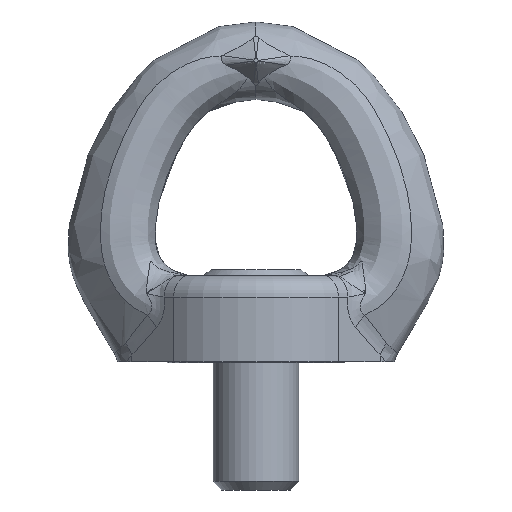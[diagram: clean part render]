
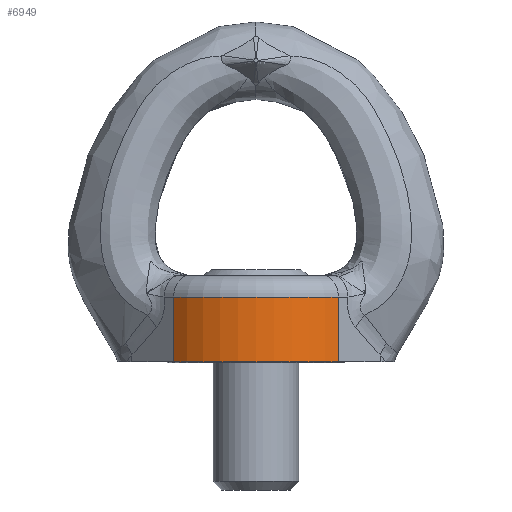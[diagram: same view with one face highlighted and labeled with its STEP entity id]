
A CAD part, front view. The second image highlights one B-rep face of the part: STEP entity #6949.
In plain terms, the highlighted cylindrical face has radius 27 mm (diameter 54 mm), a partial arc.
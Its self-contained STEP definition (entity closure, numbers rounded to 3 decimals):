
#1067=LINE('',#23926,#1388);
#1073=LINE('',#24899,#1394);
#1388=VECTOR('',#8592,10.);
#1394=VECTOR('',#8638,10.);
#1910=FACE_OUTER_BOUND('',#2355,.T.);
#2355=EDGE_LOOP('',(#6312,#6313,#6314,#6315));
#2604=CIRCLE('',#7453,27.);
#2606=CIRCLE('',#7457,27.);
#3349=VERTEX_POINT('',#23857);
#3353=VERTEX_POINT('',#23924);
#3363=VERTEX_POINT('',#24855);
#3365=VERTEX_POINT('',#24898);
#4348=EDGE_CURVE('',#3349,#3353,#1067,.F.);
#4371=EDGE_CURVE('',#3363,#3349,#2604,.T.);
#4374=EDGE_CURVE('',#3363,#3365,#1073,.F.);
#4378=EDGE_CURVE('',#3353,#3365,#2606,.T.);
#6312=ORIENTED_EDGE('',*,*,#4371,.T.);
#6313=ORIENTED_EDGE('',*,*,#4348,.T.);
#6314=ORIENTED_EDGE('',*,*,#4378,.T.);
#6315=ORIENTED_EDGE('',*,*,#4374,.F.);
#6535=CYLINDRICAL_SURFACE('',#7456,27.);
#6949=ADVANCED_FACE('',(#1910),#6535,.T.);
#7453=AXIS2_PLACEMENT_3D('',#24859,#8632,#8633);
#7456=AXIS2_PLACEMENT_3D('',#24920,#8641,#8642);
#7457=AXIS2_PLACEMENT_3D('',#24921,#8643,#8644);
#8592=DIRECTION('',(0.,0.,1.));
#8632=DIRECTION('center_axis',(0.,0.,-1.));
#8633=DIRECTION('ref_axis',(-0.387,-0.922,0.));
#8638=DIRECTION('',(0.,0.,1.));
#8641=DIRECTION('center_axis',(0.,0.,1.));
#8642=DIRECTION('ref_axis',(0.714,0.7,0.));
#8643=DIRECTION('center_axis',(0.,0.,1.));
#8644=DIRECTION('ref_axis',(-0.714,0.7,0.));
#23857=CARTESIAN_POINT('',(-19.272,-18.91,15.1));
#23924=CARTESIAN_POINT('',(-19.272,-18.91,0.));
#23926=CARTESIAN_POINT('',(-19.272,-18.91,0.));
#24855=CARTESIAN_POINT('',(19.272,-18.91,15.1));
#24859=CARTESIAN_POINT('Origin',(0.,0.,15.1));
#24898=CARTESIAN_POINT('',(19.272,-18.91,0.));
#24899=CARTESIAN_POINT('',(19.272,-18.91,0.));
#24920=CARTESIAN_POINT('Origin',(0.,0.,0.));
#24921=CARTESIAN_POINT('Origin',(0.,0.,0.));
